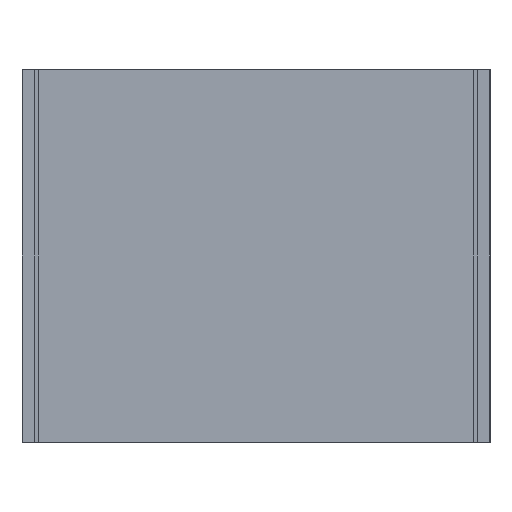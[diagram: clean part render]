
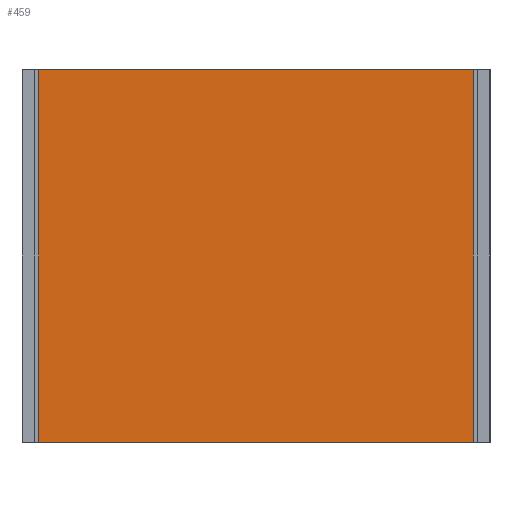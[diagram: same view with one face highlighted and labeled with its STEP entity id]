
A CAD part, front view. The second image highlights one B-rep face of the part: STEP entity #459.
In plain terms, the highlighted planar face has unit normal (0, -1, 0).
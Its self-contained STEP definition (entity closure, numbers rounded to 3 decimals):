
#8 = LINE ( 'NONE', #965, #1284 ) ;
#42 = DIRECTION ( 'NONE',  ( 1., 0., 0. ) ) ;
#144 = DIRECTION ( 'NONE',  ( 0., 0., -1. ) ) ;
#169 = CARTESIAN_POINT ( 'NONE',  ( 107.95, -68.25, -92.5 ) ) ;
#177 = CARTESIAN_POINT ( 'NONE',  ( -107.95, -68.25, 92.5 ) ) ;
#271 = EDGE_CURVE ( 'NONE', #802, #728, #403, .T. ) ;
#276 = VERTEX_POINT ( 'NONE', #1149 ) ;
#295 = DIRECTION ( 'NONE',  ( 1., 0., 0. ) ) ;
#324 = VECTOR ( 'NONE', #144, 1000. ) ;
#346 = FACE_OUTER_BOUND ( 'NONE', #855, .T. ) ;
#369 = EDGE_CURVE ( 'NONE', #802, #276, #8, .T. ) ;
#393 = CARTESIAN_POINT ( 'NONE',  ( 107.95, -68.25, 92.5 ) ) ;
#403 = LINE ( 'NONE', #177, #1014 ) ;
#452 = VERTEX_POINT ( 'NONE', #169 ) ;
#459 = ADVANCED_FACE ( 'NONE', ( #346 ), #1252, .F. ) ;
#475 = DIRECTION ( 'NONE',  ( 0., 0., -1. ) ) ;
#505 = CARTESIAN_POINT ( 'NONE',  ( -107.95, -68.25, 92.5 ) ) ;
#528 = CARTESIAN_POINT ( 'NONE',  ( -107.95, -68.25, 92.5 ) ) ;
#556 = ORIENTED_EDGE ( 'NONE', *, *, #271, .F. ) ;
#728 = VERTEX_POINT ( 'NONE', #860 ) ;
#730 = ORIENTED_EDGE ( 'NONE', *, *, #1328, .T. ) ;
#744 = ORIENTED_EDGE ( 'NONE', *, *, #800, .F. ) ;
#745 = LINE ( 'NONE', #895, #1164 ) ;
#800 = EDGE_CURVE ( 'NONE', #728, #452, #932, .T. ) ;
#802 = VERTEX_POINT ( 'NONE', #505 ) ;
#855 = EDGE_LOOP ( 'NONE', ( #730, #744, #556, #1335 ) ) ;
#860 = CARTESIAN_POINT ( 'NONE',  ( 107.95, -68.25, 92.5 ) ) ;
#895 = CARTESIAN_POINT ( 'NONE',  ( -107.95, -68.25, -92.5 ) ) ;
#932 = LINE ( 'NONE', #393, #324 ) ;
#965 = CARTESIAN_POINT ( 'NONE',  ( -107.95, -68.25, 92.5 ) ) ;
#1012 = DIRECTION ( 'NONE',  ( 0., 1., 0. ) ) ;
#1014 = VECTOR ( 'NONE', #295, 1000. ) ;
#1149 = CARTESIAN_POINT ( 'NONE',  ( -107.95, -68.25, -92.5 ) ) ;
#1164 = VECTOR ( 'NONE', #42, 1000. ) ;
#1252 = PLANE ( 'NONE',  #1258 ) ;
#1258 = AXIS2_PLACEMENT_3D ( 'NONE', #528, #1012, #1497 ) ;
#1284 = VECTOR ( 'NONE', #475, 1000. ) ;
#1328 = EDGE_CURVE ( 'NONE', #276, #452, #745, .T. ) ;
#1335 = ORIENTED_EDGE ( 'NONE', *, *, #369, .T. ) ;
#1497 = DIRECTION ( 'NONE',  ( -1., 0., 0. ) ) ;
